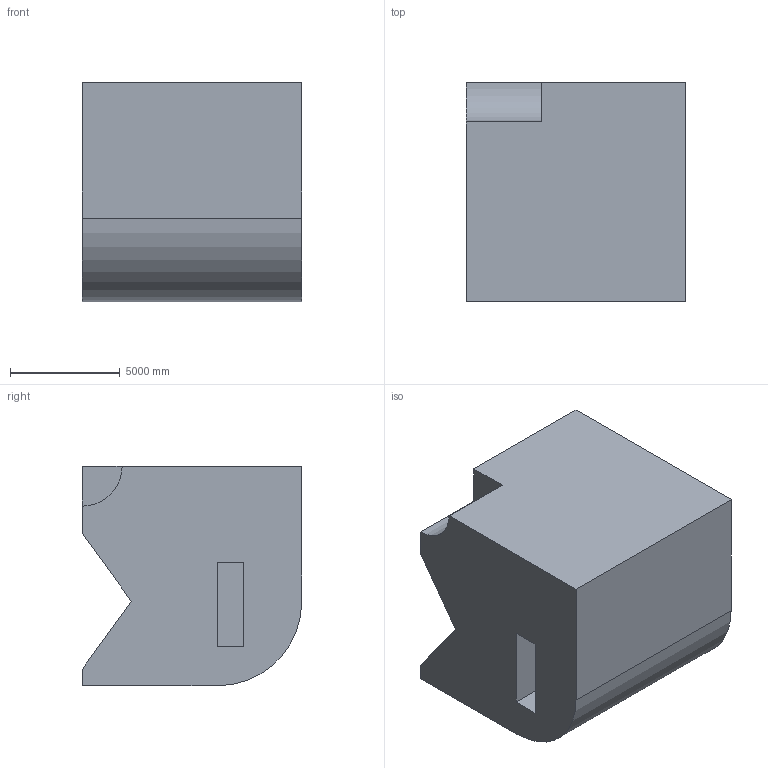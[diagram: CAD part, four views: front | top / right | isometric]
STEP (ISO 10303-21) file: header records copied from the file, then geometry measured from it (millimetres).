
FILE_DESCRIPTION (( 'STEP AP203' ), '1' );
FILE_NAME ('366.STEP', '2022-07-28T14:30:21', ( 'user' ), ( '' ), 'SwSTEP 2.0', 'SolidWorks 2021', '' );
FILE_SCHEMA (( 'CONFIG_CONTROL_DESIGN' ));
Length unit declared in the file: centimetre
Products named in the file (1): 366
Bounding box: 10000 x 10000 x 10000 mm (x, y, z)
Volume: 882228091551.8 mm3; surface area: 594200033.1 mm2
Topology: 1 solids, 1 shells, 17 faces, 42 edges, 28 vertices
Faces by surface type: plane 15, cylinder 2
Entity records: 577 total; most frequent: CARTESIAN_POINT 88, ORIENTED_EDGE 84, DIRECTION 82, EDGE_CURVE 42, LINE 38, VECTOR 38, VERTEX_POINT 28, AXIS2_PLACEMENT_3D 22
